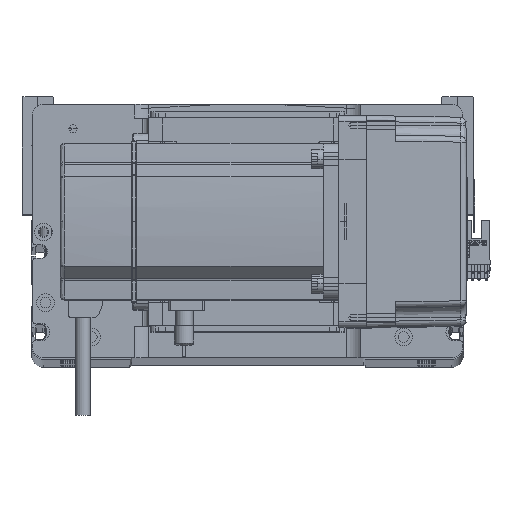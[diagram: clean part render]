
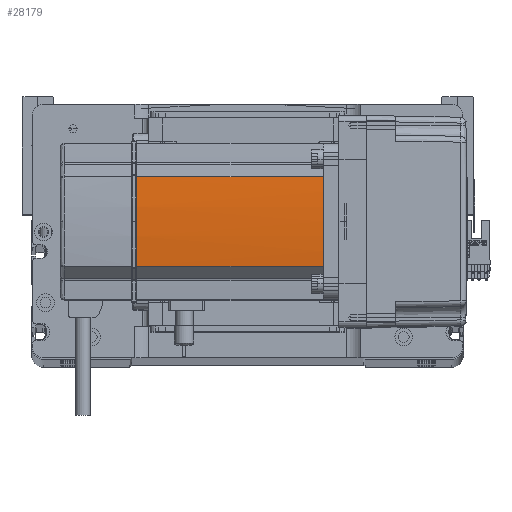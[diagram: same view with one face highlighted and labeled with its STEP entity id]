
A CAD part, top view. The second image highlights one B-rep face of the part: STEP entity #28179.
In plain terms, the highlighted cylindrical face has radius 270 mm (diameter 540 mm), a partial arc.
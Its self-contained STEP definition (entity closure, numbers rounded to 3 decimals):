
#627 = DIRECTION ( 'NONE',  ( 1., 0., 0. ) ) ;
#1928 = VECTOR ( 'NONE', #6664, 1000. ) ;
#2311 = CARTESIAN_POINT ( 'NONE',  ( -39.042, 22.724, 0. ) ) ;
#2722 = LINE ( 'NONE', #46524, #50935 ) ;
#2985 = ORIENTED_EDGE ( 'NONE', *, *, #31352, .T. ) ;
#3377 = DIRECTION ( 'NONE',  ( 0., 0., -1. ) ) ;
#5295 = AXIS2_PLACEMENT_3D ( 'NONE', #24799, #3377, #37707 ) ;
#6664 = DIRECTION ( 'NONE',  ( 0., 0., -1. ) ) ;
#7860 = CYLINDRICAL_SURFACE ( 'NONE', #41534, 270. ) ;
#8479 = CARTESIAN_POINT ( 'NONE',  ( 230., 0., 134. ) ) ;
#12861 = CARTESIAN_POINT ( 'NONE',  ( -40., 0., 134. ) ) ;
#13295 = VERTEX_POINT ( 'NONE', #28392 ) ;
#13312 = FACE_OUTER_BOUND ( 'NONE', #30859, .T. ) ;
#17011 = DIRECTION ( 'NONE',  ( 0., 0., -1. ) ) ;
#18126 = EDGE_CURVE ( 'NONE', #13295, #48575, #2722, .T. ) ;
#24799 = CARTESIAN_POINT ( 'NONE',  ( 230., 0., 134. ) ) ;
#25017 = LINE ( 'NONE', #2311, #1928 ) ;
#25924 = DIRECTION ( 'NONE',  ( 0., 0., 1. ) ) ;
#27420 = EDGE_CURVE ( 'NONE', #48575, #50229, #44034, .T. ) ;
#28179 = ADVANCED_FACE ( 'NONE', ( #13312 ), #7860, .T. ) ;
#28392 = CARTESIAN_POINT ( 'NONE',  ( -39.042, -22.724, 39. ) ) ;
#29141 = ORIENTED_EDGE ( 'NONE', *, *, #49822, .F. ) ;
#30824 = AXIS2_PLACEMENT_3D ( 'NONE', #53512, #39864, #627 ) ;
#30859 = EDGE_LOOP ( 'NONE', ( #50675, #2985, #53554, #29141, #52631 ) ) ;
#31352 = EDGE_CURVE ( 'NONE', #50229, #43364, #55144, .T. ) ;
#34309 = VERTEX_POINT ( 'NONE', #46659 ) ;
#37707 = DIRECTION ( 'NONE',  ( 1., 0., 0. ) ) ;
#38674 = DIRECTION ( 'NONE',  ( 1., 0., 0. ) ) ;
#39218 = CARTESIAN_POINT ( 'NONE',  ( 230., 0., 0. ) ) ;
#39864 = DIRECTION ( 'NONE',  ( 0., 0., -1. ) ) ;
#41534 = AXIS2_PLACEMENT_3D ( 'NONE', #39218, #25924, #47751 ) ;
#43364 = VERTEX_POINT ( 'NONE', #50755 ) ;
#44034 = CIRCLE ( 'NONE', #54572, 270. ) ;
#46524 = CARTESIAN_POINT ( 'NONE',  ( -39.042, -22.724, 0. ) ) ;
#46659 = CARTESIAN_POINT ( 'NONE',  ( -39.042, 22.724, 39. ) ) ;
#47751 = DIRECTION ( 'NONE',  ( 1., 0., 0. ) ) ;
#48575 = VERTEX_POINT ( 'NONE', #53877 ) ;
#49822 = EDGE_CURVE ( 'NONE', #13295, #34309, #51576, .T. ) ;
#50229 = VERTEX_POINT ( 'NONE', #12861 ) ;
#50285 = EDGE_CURVE ( 'NONE', #43364, #34309, #25017, .T. ) ;
#50675 = ORIENTED_EDGE ( 'NONE', *, *, #27420, .T. ) ;
#50755 = CARTESIAN_POINT ( 'NONE',  ( -39.042, 22.724, 134. ) ) ;
#50895 = DIRECTION ( 'NONE',  ( 0., 0., 1. ) ) ;
#50935 = VECTOR ( 'NONE', #50895, 1000. ) ;
#51576 = CIRCLE ( 'NONE', #30824, 270. ) ;
#52631 = ORIENTED_EDGE ( 'NONE', *, *, #18126, .T. ) ;
#53512 = CARTESIAN_POINT ( 'NONE',  ( 230., 0., 39. ) ) ;
#53554 = ORIENTED_EDGE ( 'NONE', *, *, #50285, .T. ) ;
#53877 = CARTESIAN_POINT ( 'NONE',  ( -39.042, -22.724, 134. ) ) ;
#54572 = AXIS2_PLACEMENT_3D ( 'NONE', #8479, #17011, #38674 ) ;
#55144 = CIRCLE ( 'NONE', #5295, 270. ) ;
